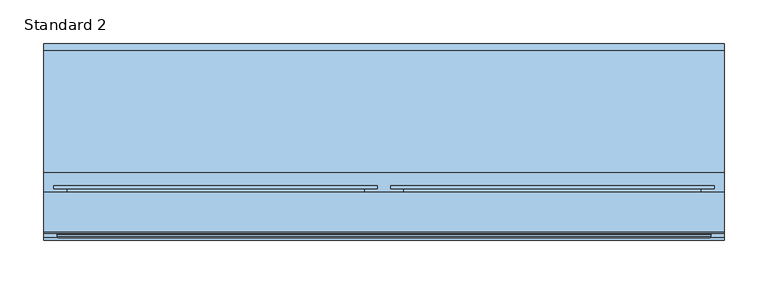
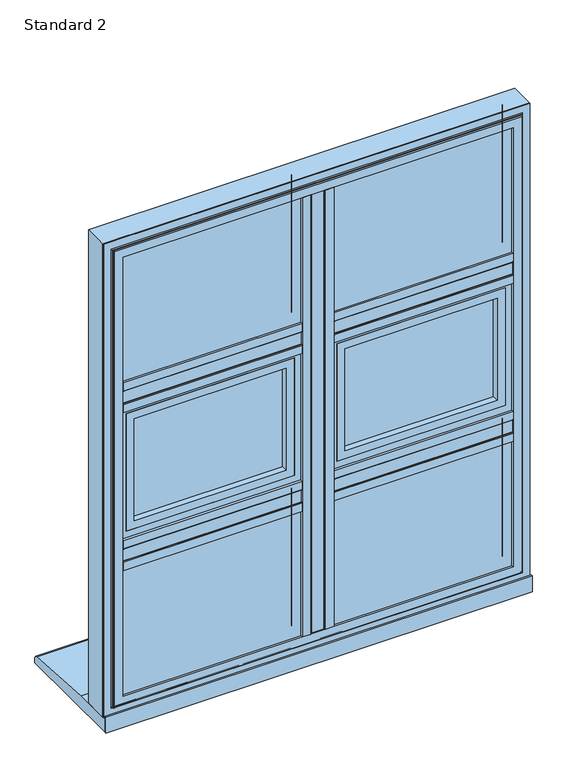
"""IFC4 building model written with IfcOpenShell, lengths in millimetres: window geometry, SMARTS_AlithermHeritage : Standard 2."""

from ifc_helpers import new_model, si_unit, point, frame, frame_2d, origin, place, context, project, spatial, polyline, circle_curve, ellipse_curve, trimmed, segment, composite_curve, outline, extrude, faceted_brep, source, transform, mapped, element, save
from ifc_brep_helpers import plane_surface, cylinder_surface, revolved_surface, advanced_brep


def standard_2_3150987d(model_context):
    return source(origin(), model_context, "Body", "SolidModel", [
        extrude(outline(polyline([(-13.6941456, 95.2798432), (13.6941456, 95.2798432), (13.6941456, 47.279476), (-13.6941456, 47.279476), (-13.6941456, 95.2798432)])), frame((0.0, 0.0, 652.6941456), z_axis=(0.0, 0.0, 1.0), x_axis=(1.0, 0.0, 0.0)), (0.0, 0.0, 1.0), 879.6117089),
        extrude(outline(composite_curve([segment(polyline([(-29.0, 47.279476), (29.0, 47.279476), (29.0, 43.2798432), (13.0, 43.2798432)]), True, "CONTINUOUS"), segment(trimmed(circle_curve(frame_2d((13.0, 44.2798432)), 1.0), [point((13.0, 43.2798432))], [point((12.0, 44.2798432))], False, "CARTESIAN"), True, "CONTINUOUS"), segment(polyline([(12.0, 44.2798432), (12.0, 45.7798432), (-12.0, 45.7798432), (-12.0, 44.2798432)]), True, "CONTINUOUS"), segment(trimmed(circle_curve(frame_2d((-13.0, 44.2798432)), 1.0), [point((-12.0, 44.2798432))], [point((-13.0, 43.2798432))], False, "CARTESIAN"), True, "CONTINUOUS"), segment(polyline([(-13.0, 43.2798432), (-29.0, 43.2798432), (-29.0, 47.279476)]), True, "CONTINUOUS")], self_intersect=False)), frame((0.0, 0.0, 668.0), z_axis=(0.0, 0.0, 1.0), x_axis=(1.0, 0.0, 0.0)), (0.0, 0.0, 1.0), 849.0),
        extrude(outline(polyline([(-13.6941456, 95.2798432), (-13.6941456, 47.279476), (-372.3058544, 47.279476), (-372.3058544, 95.2798432), (-13.6941456, 95.2798432)])), frame((0.0, 0.0, 926.3058544), z_axis=(0.0, 0.0, 1.0), x_axis=(1.0, 0.0, 0.0)), (0.0, 0.0, 1.0), 27.3882911),
        extrude(outline(composite_curve([segment(polyline([(47.279476, 911.0), (43.2798432, 911.0), (43.2798432, 927.0)]), True, "CONTINUOUS"), segment(trimmed(circle_curve(frame_2d((44.2798432, 927.0)), 1.0), [point((43.2798432, 927.0))], [point((44.2798432, 928.0))], False, "CARTESIAN"), True, "CONTINUOUS"), segment(polyline([(44.2798432, 928.0), (45.7798432, 928.0), (45.7798432, 952.0), (44.2798432, 952.0)]), True, "CONTINUOUS"), segment(trimmed(circle_curve(frame_2d((44.2798432, 953.0)), 1.0), [point((44.2798432, 952.0))], [point((43.2798432, 953.0))], False, "CARTESIAN"), True, "CONTINUOUS"), segment(polyline([(43.2798432, 953.0), (43.2798432, 969.0), (47.279476, 969.0), (47.279476, 911.0)]), True, "CONTINUOUS")], self_intersect=False)), frame((-357.0, 0.0, 0.0), z_axis=(1.0, 0.0, 0.0), x_axis=(0.0, 1.0, 0.0)), (0.0, 0.0, 1.0), 328.0),
        extrude(outline(polyline([(-13.6941456, 95.2798432), (-13.6941456, 47.279476), (-372.3058544, 47.279476), (-372.3058544, 95.2798432), (-13.6941456, 95.2798432)])), frame((0.0, 0.0, 1231.3058544), z_axis=(0.0, 0.0, 1.0), x_axis=(1.0, 0.0, 0.0)), (0.0, 0.0, 1.0), 27.3882911),
        extrude(outline(composite_curve([segment(polyline([(47.279476, 1216.0), (43.2798432, 1216.0), (43.2798432, 1232.0)]), True, "CONTINUOUS"), segment(trimmed(circle_curve(frame_2d((44.2798432, 1232.0)), 1.0), [point((43.2798432, 1232.0))], [point((44.2798432, 1233.0))], False, "CARTESIAN"), True, "CONTINUOUS"), segment(polyline([(44.2798432, 1233.0), (45.7798432, 1233.0), (45.7798432, 1257.0), (44.2798432, 1257.0)]), True, "CONTINUOUS"), segment(trimmed(circle_curve(frame_2d((44.2798432, 1258.0)), 1.0), [point((44.2798432, 1257.0))], [point((43.2798432, 1258.0))], False, "CARTESIAN"), True, "CONTINUOUS"), segment(polyline([(43.2798432, 1258.0), (43.2798432, 1274.0), (47.279476, 1274.0), (47.279476, 1216.0)]), True, "CONTINUOUS")], self_intersect=False)), frame((-357.0, 0.0, 0.0), z_axis=(1.0, 0.0, 0.0), x_axis=(0.0, 1.0, 0.0)), (0.0, 0.0, 1.0), 328.0),
        extrude(outline(polyline([(372.3058544, 95.2798432), (372.3058544, 47.279476), (13.6941456, 47.279476), (13.6941456, 95.2798432), (372.3058544, 95.2798432)])), frame((0.0, 0.0, 926.3058544), z_axis=(0.0, 0.0, 1.0), x_axis=(1.0, 0.0, 0.0)), (0.0, 0.0, 1.0), 27.3882911),
        extrude(outline(composite_curve([segment(polyline([(47.279476, 911.0), (43.2798432, 911.0), (43.2798432, 927.0)]), True, "CONTINUOUS"), segment(trimmed(circle_curve(frame_2d((44.2798432, 927.0)), 1.0), [point((43.2798432, 927.0))], [point((44.2798432, 928.0))], False, "CARTESIAN"), True, "CONTINUOUS"), segment(polyline([(44.2798432, 928.0), (45.7798432, 928.0), (45.7798432, 952.0), (44.2798432, 952.0)]), True, "CONTINUOUS"), segment(trimmed(circle_curve(frame_2d((44.2798432, 953.0)), 1.0), [point((44.2798432, 952.0))], [point((43.2798432, 953.0))], False, "CARTESIAN"), True, "CONTINUOUS"), segment(polyline([(43.2798432, 953.0), (43.2798432, 969.0), (47.279476, 969.0), (47.279476, 911.0)]), True, "CONTINUOUS")], self_intersect=False)), frame((29.0, 0.0, 0.0), z_axis=(1.0, 0.0, 0.0), x_axis=(0.0, 1.0, 0.0)), (0.0, 0.0, 1.0), 328.0),
        extrude(outline(polyline([(372.3058544, 95.2798432), (372.3058544, 47.279476), (13.6941456, 47.279476), (13.6941456, 95.2798432), (372.3058544, 95.2798432)])), frame((0.0, 0.0, 1231.3058544), z_axis=(0.0, 0.0, 1.0), x_axis=(1.0, 0.0, 0.0)), (0.0, 0.0, 1.0), 27.3882911),
        extrude(outline(composite_curve([segment(polyline([(47.279476, 1216.0), (43.2798432, 1216.0), (43.2798432, 1232.0)]), True, "CONTINUOUS"), segment(trimmed(circle_curve(frame_2d((44.2798432, 1232.0)), 1.0), [point((43.2798432, 1232.0))], [point((44.2798432, 1233.0))], False, "CARTESIAN"), True, "CONTINUOUS"), segment(polyline([(44.2798432, 1233.0), (45.7798432, 1233.0), (45.7798432, 1257.0), (44.2798432, 1257.0)]), True, "CONTINUOUS"), segment(trimmed(circle_curve(frame_2d((44.2798432, 1258.0)), 1.0), [point((44.2798432, 1257.0))], [point((43.2798432, 1258.0))], False, "CARTESIAN"), True, "CONTINUOUS"), segment(polyline([(43.2798432, 1258.0), (43.2798432, 1274.0), (47.279476, 1274.0), (47.279476, 1216.0)]), True, "CONTINUOUS")], self_intersect=False)), frame((29.0, 0.0, 0.0), z_axis=(1.0, 0.0, 0.0), x_axis=(0.0, 1.0, 0.0)), (0.0, 0.0, 1.0), 328.0),
        extrude(outline(polyline([(-367.0, 75.2798432), (-19.0, 75.2798432), (-19.0, 71.2798432), (-367.0, 71.2798432), (-367.0, 75.2798432)])), frame((0.0, 0.0, 658.0), z_axis=(0.0, 0.0, 1.0), x_axis=(1.0, 0.0, 0.0)), (0.0, 0.0, 1.0), 263.0),
        extrude(outline(polyline([(-367.0, 55.2798432), (-19.0, 55.2798432), (-19.0, 51.2798432), (-367.0, 51.2798432), (-367.0, 55.2798432)])), frame((0.0, 0.0, 658.0), z_axis=(0.0, 0.0, 1.0), x_axis=(1.0, 0.0, 0.0)), (0.0, 0.0, 1.0), 263.0),
        extrude(outline(polyline([(921.0, -367.0), (658.0, -367.0), (658.0, -19.0), (921.0, -19.0), (921.0, -367.0)]), holes=[polyline([(911.0, -29.0), (668.0, -29.0), (668.0, -357.0), (911.0, -357.0), (911.0, -29.0)])]), frame((0.0, 55.2798432, 0.0), z_axis=(0.0, 1.0, 0.0), x_axis=(0.0, 0.0, 1.0)), (0.0, 0.0, 1.0), 16.0),
        faceted_brep([(-19.1851151, 95.2798432, 920.8148849), (-29.0, 78.2798098, 911.0), (-357.0, 78.2798098, 911.0), (-366.8148849, 95.2798432, 920.8148849), (-13.6297324, 78.2798098, 926.3702676), (-13.6297324, 95.2798432, 926.3702676), (-372.3702676, 95.2798432, 926.3702676), (-372.3702676, 78.2798098, 926.3702676), (-372.3702676, 78.2798098, 652.6297324), (-372.3702676, 95.2798432, 652.6297324), (-13.6297324, 95.2798432, 652.6297324), (-13.6297324, 78.2798098, 652.6297324), (-366.8148849, 95.2798432, 658.1851151), (-19.1851151, 95.2798432, 658.1851151), (-29.0, 78.2798098, 668.0), (-357.0, 78.2798098, 668.0)], [[[0, 1, 2, 3]], [[4, 5, 6, 7]], [[8, 9, 10, 11]], [[5, 10, 9, 6], [3, 12, 13, 0]], [[7, 8, 11, 4], [1, 14, 15, 2]], [[3, 2, 15, 12]], [[7, 6, 9, 8]], [[12, 15, 14, 13]], [[13, 14, 1, 0]], [[11, 10, 5, 4]]]),
        extrude(outline(polyline([(-343.5, 89.2798432), (-42.5, 89.2798432), (-42.5, 85.2798432), (-343.5, 85.2798432), (-343.5, 89.2798432)])), frame((0.0, 0.0, 982.5), z_axis=(0.0, 0.0, 1.0), x_axis=(1.0, 0.0, 0.0)), (0.0, 0.0, 1.0), 220.0),
        extrude(outline(polyline([(-343.5, 69.2798432), (-42.5, 69.2798432), (-42.5, 65.2798432), (-343.5, 65.2798432), (-343.5, 69.2798432)])), frame((0.0, 0.0, 982.5), z_axis=(0.0, 0.0, 1.0), x_axis=(1.0, 0.0, 0.0)), (0.0, 0.0, 1.0), 220.0),
        extrude(outline(polyline([(1202.5, -343.5), (982.5, -343.5), (982.5, -42.5), (1202.5, -42.5), (1202.5, -343.5)]), holes=[polyline([(1192.5, -52.5), (992.5, -52.5), (992.5, -333.5), (1192.5, -333.5), (1192.5, -52.5)])]), frame((0.0, 69.2798432, 0.0), z_axis=(0.0, 1.0, 0.0), x_axis=(0.0, 0.0, 1.0)), (0.0, 0.0, 1.0), 16.0),
        extrude(outline(polyline([(1206.0052956, -347.0052956), (978.9947044, -347.0052956), (978.9947044, -38.9947044), (1206.0052956, -38.9947044), (1206.0052956, -347.0052956)]), holes=[polyline([(1191.0, -54.0), (994.0, -54.0), (994.0, -332.0), (1191.0, -332.0), (1191.0, -54.0)])]), frame((0.0, 51.2798432, 0.0), z_axis=(0.0, 1.0, 0.0), x_axis=(0.0, 0.0, 1.0)), (0.0, 0.0, 1.0), 11.3),
        extrude(outline(polyline([(963.3548042, -362.6451958), (963.3548042, -23.3548042), (1221.6451958, -23.3548042), (1221.6451958, -362.6451958), (963.3548042, -362.6451958)]), holes=[polyline([(1206.0, -347.0), (1206.0, -39.0), (979.0, -39.0), (979.0, -347.0), (1206.0, -347.0)])]), frame((0.0, 51.2798432, 0.0), z_axis=(0.0, 1.0, 0.0), x_axis=(0.0, 0.0, 1.0)), (0.0, 0.0, 1.0), 41.6),
        advanced_brep(
        [(-332.0, 98.0798432, 1191.0), (-332.0, 92.8798432, 1191.0), (-332.0, 92.8798432, 994.0), (-332.0, 98.0798432, 994.0), (-54.0, 92.8798432, 994.0), (-54.0, 98.0798432, 994.0), (-54.0, 92.8798432, 1191.0), (-54.0, 98.0798432, 1191.0), (-378.2, 99.2798432, 1237.2), (-378.2, 103.2798432, 1237.2), (-378.2, 103.2798432, 947.8), (-378.2, 99.2798432, 947.8), (-7.8, 103.2798432, 947.8), (-7.8, 99.2798432, 947.8), (-7.8, 103.2798432, 1237.2), (-7.8, 99.2798432, 1237.2), (-363.1467657, 99.2798432, 1222.1467657), (-22.8532343, 99.2798432, 1222.1467657), (-22.8532343, 99.2798432, 962.8532343), (-363.1467657, 99.2798432, 962.8532343), (-349.2, 103.2798432, 976.8), (-36.8, 103.2798432, 976.8), (-36.8, 103.2798432, 1208.2), (-349.2, 103.2798432, 1208.2), (-363.1467657, 92.8798432, 1222.1467657), (-363.1467657, 92.8798432, 962.8532343), (-22.8532343, 92.8798432, 962.8532343), (-22.8532343, 92.8798432, 1222.1467657), (-347.2, 101.2798432, 1206.2), (-347.2, 100.0798432, 1206.2), (-347.2, 100.0798432, 978.8), (-347.2, 101.2798432, 978.8), (-345.2, 98.0798432, 1204.2), (-345.2, 98.0798432, 980.8), (-38.8, 100.0798432, 978.8), (-38.8, 101.2798432, 978.8), (-40.8, 98.0798432, 980.8), (-38.8, 100.0798432, 1206.2), (-38.8, 101.2798432, 1206.2), (-40.8, 98.0798432, 1204.2)],
        [
            (0, 1),
            (1, 2),
            (2, 3),
            (3, 0),
            (2, 4),
            (4, 5),
            (5, 3),
            (4, 6),
            (6, 7),
            (7, 5),
            (6, 1),
            (0, 7),
            (8, 9),
            (9, 10),
            (10, 11),
            (11, 8),
            (10, 12),
            (12, 13),
            (13, 11),
            (12, 14),
            (14, 15),
            (15, 13),
            (15, 8),
            (16, 17),
            (17, 18),
            (18, 19),
            (19, 16),
            (14, 9),
            (20, 21),
            (21, 22),
            (22, 23),
            (23, 20),
            (24, 16),
            (19, 25),
            (25, 24),
            (18, 26),
            (26, 25),
            (17, 27),
            (27, 26),
            (27, 24),
            (28, 29),
            (29, 30),
            (30, 31),
            (31, 28),
            (29, 32, ellipse_curve(frame((-345.2, 100.0798432, 1204.2), z_axis=(0.7071067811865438, 0.0, 0.7071067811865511), x_axis=(0.707106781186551, 0.0, -0.7071067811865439)), 2.8284271, 2.0)),
            (32, 33),
            (33, 30, ellipse_curve(frame((-345.2, 100.0798432, 980.8), z_axis=(0.7071067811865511, 0.0, -0.7071067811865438), x_axis=(-0.7071067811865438, 0.0, -0.7071067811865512)), 2.8284271, 2.0)),
            (30, 34),
            (34, 35),
            (35, 31),
            (33, 36),
            (36, 34, ellipse_curve(frame((-40.8, 100.0798432, 980.8), z_axis=(0.7071067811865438, 0.0, 0.7071067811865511), x_axis=(0.7071067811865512, 0.0, -0.7071067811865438)), 2.8284271, 2.0)),
            (34, 37),
            (37, 38),
            (38, 35),
            (36, 39),
            (39, 37, ellipse_curve(frame((-40.8, 100.0798432, 1204.2), z_axis=(-0.7071067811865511, 0.0, 0.7071067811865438), x_axis=(0.7071067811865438, 0.0, 0.7071067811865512)), 2.8284271, 2.0)),
            (32, 39),
            (37, 29),
            (28, 38),
            (23, 28, ellipse_curve(frame((-349.2, 101.2798432, 1208.2), z_axis=(-0.7071067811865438, 0.0, -0.7071067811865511), x_axis=(-0.707106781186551, 0.0, 0.7071067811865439)), 2.8284271, 2.0)),
            (31, 20, ellipse_curve(frame((-349.2, 101.2798432, 976.8), z_axis=(-0.7071067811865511, 0.0, 0.7071067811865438), x_axis=(0.7071067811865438, 0.0, 0.7071067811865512)), 2.8284271, 2.0)),
            (35, 21, ellipse_curve(frame((-36.8, 101.2798432, 976.8), z_axis=(-0.7071067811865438, 0.0, -0.7071067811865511), x_axis=(-0.7071067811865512, 0.0, 0.7071067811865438)), 2.8284271, 2.0)),
            (38, 22, ellipse_curve(frame((-36.8, 101.2798432, 1208.2), z_axis=(0.7071067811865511, 0.0, -0.7071067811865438), x_axis=(-0.7071067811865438, 0.0, -0.7071067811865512)), 2.8284271, 2.0)),
        ],
        [
            plane_surface(frame((-332.0, 92.8798432, 1191.0), z_axis=(1.0, 0.0, 0.0), x_axis=(0.0, 0.0, -1.0))),
            plane_surface(frame((-332.0, 92.8798432, 994.0), z_axis=(0.0, 0.0, 1.0), x_axis=(1.0, 0.0, 0.0))),
            plane_surface(frame((-54.0, 92.8798432, 994.0), z_axis=(-1.0, 0.0, 0.0), x_axis=(0.0, 0.0, 1.0))),
            plane_surface(frame((-54.0, 92.8798432, 1191.0), z_axis=(0.0, 0.0, -1.0), x_axis=(-1.0, 0.0, 0.0))),
            plane_surface(frame((-378.2, 103.2798432, 1237.2), z_axis=(-1.0, 0.0, 0.0), x_axis=(0.0, 0.0, -1.0))),
            plane_surface(frame((-378.2, 103.2798432, 947.8), z_axis=(0.0, 0.0, -1.0), x_axis=(1.0, 0.0, 0.0))),
            plane_surface(frame((-7.8, 103.2798432, 947.8), z_axis=(1.0, 0.0, 0.0), x_axis=(0.0, 0.0, 1.0))),
            plane_surface(frame((-7.8, 99.2798432, 1237.2), z_axis=(0.0, -1.0, 0.0), x_axis=(-1.0, 0.0, 0.0))),
            plane_surface(frame((-7.8, 103.2798432, 1237.2), z_axis=(0.0, 0.0, 1.0), x_axis=(-1.0, 0.0, 0.0))),
            plane_surface(frame((-36.8, 103.2798432, 1208.2), z_axis=(0.0, 1.0, 0.0), x_axis=(-1.0, 0.0, 0.0))),
            plane_surface(frame((-363.1467657, 99.2798432, 1222.1467657), z_axis=(-1.0, 0.0, 0.0), x_axis=(0.0, 0.0, -1.0))),
            plane_surface(frame((-363.1467657, 99.2798432, 962.8532343), z_axis=(0.0, 0.0, -1.0), x_axis=(1.0, 0.0, 0.0))),
            plane_surface(frame((-22.8532343, 99.2798432, 962.8532343), z_axis=(1.0, 0.0, 0.0), x_axis=(0.0, 0.0, 1.0))),
            plane_surface(frame((-22.8532343, 92.8798432, 1222.1467657), z_axis=(0.0, -1.0, 0.0), x_axis=(-1.0, 0.0, 0.0))),
            plane_surface(frame((-22.8532343, 99.2798432, 1222.1467657), z_axis=(0.0, 0.0, 1.0), x_axis=(-1.0, 0.0, 0.0))),
            plane_surface(frame((-347.2, 100.0798432, 1206.2), z_axis=(1.0, 0.0, 0.0), x_axis=(0.0, 0.0, -1.0))),
            revolved_surface(polyline([(-347.2, 100.0798432, 978.8), (-347.2, 100.0798432, 1206.2)]), (-345.2, 100.0798432, 1216.0), (0.0, 0.0, -1.0)),
            plane_surface(frame((-347.2, 100.0798432, 978.8), z_axis=(0.0, 0.0, 1.0), x_axis=(1.0, 0.0, 0.0))),
            revolved_surface(polyline([(-38.80000000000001, 100.0798432, 978.8), (-347.2, 100.0798432, 978.8)]), (-357.0, 100.0798432, 980.8), (1.0, 0.0, 0.0)),
            plane_surface(frame((-38.8, 100.0798432, 978.8), z_axis=(-1.0, 0.0, 0.0), x_axis=(0.0, 0.0, 1.0))),
            revolved_surface(polyline([(-38.8, 100.0798432, 1206.2), (-38.8, 100.0798432, 978.8)]), (-40.8, 100.0798432, 969.0), (0.0, 0.0, 1.0)),
            plane_surface(frame((-54.0, 98.0798432, 1191.0), z_axis=(0.0, 1.0, 0.0), x_axis=(-1.0, 0.0, 0.0))),
            plane_surface(frame((-38.8, 100.0798432, 1206.2), z_axis=(0.0, 0.0, -1.0), x_axis=(-1.0, 0.0, 0.0))),
            revolved_surface(polyline([(-347.2, 100.0798432, 1206.2), (-38.8, 100.0798432, 1206.2)]), (-29.0, 100.0798432, 1204.2), (-1.0, 0.0, 0.0)),
            cylinder_surface(frame((-349.2, 101.2798432, 1216.0), z_axis=(0.0, 0.0, 1.0), x_axis=(-1.0, 0.0, 0.0)), 2.0),
            cylinder_surface(frame((-357.0, 101.2798432, 976.8), z_axis=(-1.0, 0.0, 0.0), x_axis=(0.0, 0.0, -1.0)), 2.0),
            cylinder_surface(frame((-36.8, 101.2798432, 969.0), z_axis=(0.0, 0.0, -1.0), x_axis=(1.0, 0.0, 0.0)), 2.0),
            cylinder_surface(frame((-29.0, 101.2798432, 1208.2), z_axis=(1.0, 0.0, 0.0), x_axis=(0.0, 0.0, 1.0)), 2.0),
        ],
        [
            (0, [[1, 2, 3, 4]]),
            (1, [[-3, 5, 6, 7]]),
            (2, [[-6, 8, 9, 10]]),
            (3, [[-9, 11, -1, 12]]),
            (4, [[13, 14, 15, 16]]),
            (5, [[-15, 17, 18, 19]]),
            (6, [[-18, 20, 21, 22]]),
            (7, [[-19, -22, 23, -16], [24, 25, 26, 27]]),
            (8, [[-21, 28, -13, -23]]),
            (9, [[-28, -20, -17, -14], [29, 30, 31, 32]]),
            (10, [[33, -27, 34, 35]]),
            (11, [[-34, -26, 36, 37]]),
            (12, [[-36, -25, 38, 39]]),
            (13, [[-37, -39, 40, -35], [-11, -8, -5, -2]]),
            (14, [[-38, -24, -33, -40]]),
            (15, [[41, 42, 43, 44]]),
            (16, [[45, 46, 47, -42]]),
            (17, [[-43, 48, 49, 50]]),
            (18, [[-47, 51, 52, -48]]),
            (19, [[-49, 53, 54, 55]]),
            (20, [[-52, 56, 57, -53]]),
            (21, [[58, -56, -51, -46], [-7, -10, -12, -4]]),
            (22, [[-54, 59, -41, 60]]),
            (23, [[-57, -58, -45, -59]]),
            (24, [[61, -44, 62, -32]]),
            (25, [[-62, -50, 63, -29]]),
            (26, [[-63, -55, 64, -30]]),
            (27, [[-64, -60, -61, -31]]),
        ],
    ),
        extrude(outline(polyline([(-367.0, 75.2798432), (-19.0, 75.2798432), (-19.0, 71.2798432), (-367.0, 71.2798432), (-367.0, 75.2798432)])), frame((0.0, 0.0, 1264.0), z_axis=(0.0, 0.0, 1.0), x_axis=(1.0, 0.0, 0.0)), (0.0, 0.0, 1.0), 263.0),
        extrude(outline(polyline([(-367.0, 55.2798432), (-19.0, 55.2798432), (-19.0, 51.2798432), (-367.0, 51.2798432), (-367.0, 55.2798432)])), frame((0.0, 0.0, 1264.0), z_axis=(0.0, 0.0, 1.0), x_axis=(1.0, 0.0, 0.0)), (0.0, 0.0, 1.0), 263.0),
        extrude(outline(polyline([(1527.0, -367.0), (1264.0, -367.0), (1264.0, -19.0), (1527.0, -19.0), (1527.0, -367.0)]), holes=[polyline([(1517.0, -29.0), (1274.0, -29.0), (1274.0, -357.0), (1517.0, -357.0), (1517.0, -29.0)])]), frame((0.0, 55.2798432, 0.0), z_axis=(0.0, 1.0, 0.0), x_axis=(0.0, 0.0, 1.0)), (0.0, 0.0, 1.0), 16.0),
        faceted_brep([(-19.1851151, 95.2798432, 1526.8148849), (-29.0, 78.2798098, 1517.0), (-357.0, 78.2798098, 1517.0), (-366.8148849, 95.2798432, 1526.8148849), (-13.6297324, 78.2798098, 1532.3702676), (-13.6297324, 95.2798432, 1532.3702676), (-372.3702676, 95.2798432, 1532.3702676), (-372.3702676, 78.2798098, 1532.3702676), (-372.3702676, 78.2798098, 1258.6297324), (-372.3702676, 95.2798432, 1258.6297324), (-13.6297324, 95.2798432, 1258.6297324), (-13.6297324, 78.2798098, 1258.6297324), (-366.8148849, 95.2798432, 1264.1851151), (-19.1851151, 95.2798432, 1264.1851151), (-29.0, 78.2798098, 1274.0), (-357.0, 78.2798098, 1274.0)], [[[0, 1, 2, 3]], [[4, 5, 6, 7]], [[8, 9, 10, 11]], [[5, 10, 9, 6], [3, 12, 13, 0]], [[7, 8, 11, 4], [1, 14, 15, 2]], [[3, 2, 15, 12]], [[7, 6, 9, 8]], [[12, 15, 14, 13]], [[13, 14, 1, 0]], [[11, 10, 5, 4]]]),
        extrude(outline(polyline([(19.0, 75.2798432), (367.0, 75.2798432), (367.0, 71.2798432), (19.0, 71.2798432), (19.0, 75.2798432)])), frame((0.0, 0.0, 658.0), z_axis=(0.0, 0.0, 1.0), x_axis=(1.0, 0.0, 0.0)), (0.0, 0.0, 1.0), 263.0),
        extrude(outline(polyline([(19.0, 55.2798432), (367.0, 55.2798432), (367.0, 51.2798432), (19.0, 51.2798432), (19.0, 55.2798432)])), frame((0.0, 0.0, 658.0), z_axis=(0.0, 0.0, 1.0), x_axis=(1.0, 0.0, 0.0)), (0.0, 0.0, 1.0), 263.0),
        extrude(outline(polyline([(921.0, 19.0), (658.0, 19.0), (658.0, 367.0), (921.0, 367.0), (921.0, 19.0)]), holes=[polyline([(911.0, 357.0), (668.0, 357.0), (668.0, 29.0), (911.0, 29.0), (911.0, 357.0)])]), frame((0.0, 55.2798432, 0.0), z_axis=(0.0, 1.0, 0.0), x_axis=(0.0, 0.0, 1.0)), (0.0, 0.0, 1.0), 16.0),
        faceted_brep([(366.8148849, 95.2798432, 920.8148849), (357.0, 78.2798098, 911.0), (29.0, 78.2798098, 911.0), (19.1851151, 95.2798432, 920.8148849), (372.3702676, 78.2798098, 926.3702676), (372.3702676, 95.2798432, 926.3702676), (13.6297324, 95.2798432, 926.3702676), (13.6297324, 78.2798098, 926.3702676), (13.6297324, 78.2798098, 652.6297324), (13.6297324, 95.2798432, 652.6297324), (372.3702676, 95.2798432, 652.6297324), (372.3702676, 78.2798098, 652.6297324), (19.1851151, 95.2798432, 658.1851151), (366.8148849, 95.2798432, 658.1851151), (357.0, 78.2798098, 668.0), (29.0, 78.2798098, 668.0)], [[[0, 1, 2, 3]], [[4, 5, 6, 7]], [[8, 9, 10, 11]], [[5, 10, 9, 6], [3, 12, 13, 0]], [[7, 8, 11, 4], [1, 14, 15, 2]], [[3, 2, 15, 12]], [[7, 6, 9, 8]], [[12, 15, 14, 13]], [[13, 14, 1, 0]], [[11, 10, 5, 4]]]),
        extrude(outline(polyline([(42.5, 89.2798432), (343.5, 89.2798432), (343.5, 85.2798432), (42.5, 85.2798432), (42.5, 89.2798432)])), frame((0.0, 0.0, 982.5), z_axis=(0.0, 0.0, 1.0), x_axis=(1.0, 0.0, 0.0)), (0.0, 0.0, 1.0), 220.0),
        extrude(outline(polyline([(42.5, 69.2798432), (343.5, 69.2798432), (343.5, 65.2798432), (42.5, 65.2798432), (42.5, 69.2798432)])), frame((0.0, 0.0, 982.5), z_axis=(0.0, 0.0, 1.0), x_axis=(1.0, 0.0, 0.0)), (0.0, 0.0, 1.0), 220.0),
        extrude(outline(polyline([(1202.5, 42.5), (982.5, 42.5), (982.5, 343.5), (1202.5, 343.5), (1202.5, 42.5)]), holes=[polyline([(1192.5, 333.5), (992.5, 333.5), (992.5, 52.5), (1192.5, 52.5), (1192.5, 333.5)])]), frame((0.0, 69.2798432, 0.0), z_axis=(0.0, 1.0, 0.0), x_axis=(0.0, 0.0, 1.0)), (0.0, 0.0, 1.0), 16.0),
        extrude(outline(polyline([(1206.0052956, 38.9947044), (978.9947044, 38.9947044), (978.9947044, 347.0052956), (1206.0052956, 347.0052956), (1206.0052956, 38.9947044)]), holes=[polyline([(1191.0, 332.0), (994.0, 332.0), (994.0, 54.0), (1191.0, 54.0), (1191.0, 332.0)])]), frame((0.0, 51.2798432, 0.0), z_axis=(0.0, 1.0, 0.0), x_axis=(0.0, 0.0, 1.0)), (0.0, 0.0, 1.0), 11.3),
        extrude(outline(polyline([(963.3548042, 23.3548042), (963.3548042, 362.6451958), (1221.6451958, 362.6451958), (1221.6451958, 23.3548042), (963.3548042, 23.3548042)]), holes=[polyline([(1206.0, 39.0), (1206.0, 347.0), (979.0, 347.0), (979.0, 39.0), (1206.0, 39.0)])]), frame((0.0, 51.2798432, 0.0), z_axis=(0.0, 1.0, 0.0), x_axis=(0.0, 0.0, 1.0)), (0.0, 0.0, 1.0), 41.6),
        advanced_brep(
        [(54.0, 98.0798432, 1191.0), (54.0, 92.8798432, 1191.0), (54.0, 92.8798432, 994.0), (54.0, 98.0798432, 994.0), (332.0, 92.8798432, 994.0), (332.0, 98.0798432, 994.0), (332.0, 92.8798432, 1191.0), (332.0, 98.0798432, 1191.0), (7.8, 99.2798432, 1237.2), (7.8, 103.2798432, 1237.2), (7.8, 103.2798432, 947.8), (7.8, 99.2798432, 947.8), (378.2, 103.2798432, 947.8), (378.2, 99.2798432, 947.8), (378.2, 103.2798432, 1237.2), (378.2, 99.2798432, 1237.2), (22.8532343, 99.2798432, 1222.1467657), (363.1467657, 99.2798432, 1222.1467657), (363.1467657, 99.2798432, 962.8532343), (22.8532343, 99.2798432, 962.8532343), (36.8, 103.2798432, 976.8), (349.2, 103.2798432, 976.8), (349.2, 103.2798432, 1208.2), (36.8, 103.2798432, 1208.2), (22.8532343, 92.8798432, 1222.1467657), (22.8532343, 92.8798432, 962.8532343), (363.1467657, 92.8798432, 962.8532343), (363.1467657, 92.8798432, 1222.1467657), (38.8, 101.2798432, 1206.2), (38.8, 100.0798432, 1206.2), (38.8, 100.0798432, 978.8), (38.8, 101.2798432, 978.8), (40.8, 98.0798432, 1204.2), (40.8, 98.0798432, 980.8), (347.2, 100.0798432, 978.8), (347.2, 101.2798432, 978.8), (345.2, 98.0798432, 980.8), (347.2, 100.0798432, 1206.2), (347.2, 101.2798432, 1206.2), (345.2, 98.0798432, 1204.2)],
        [
            (0, 1),
            (1, 2),
            (2, 3),
            (3, 0),
            (2, 4),
            (4, 5),
            (5, 3),
            (4, 6),
            (6, 7),
            (7, 5),
            (6, 1),
            (0, 7),
            (8, 9),
            (9, 10),
            (10, 11),
            (11, 8),
            (10, 12),
            (12, 13),
            (13, 11),
            (12, 14),
            (14, 15),
            (15, 13),
            (15, 8),
            (16, 17),
            (17, 18),
            (18, 19),
            (19, 16),
            (14, 9),
            (20, 21),
            (21, 22),
            (22, 23),
            (23, 20),
            (24, 16),
            (19, 25),
            (25, 24),
            (18, 26),
            (26, 25),
            (17, 27),
            (27, 26),
            (27, 24),
            (28, 29),
            (29, 30),
            (30, 31),
            (31, 28),
            (29, 32, ellipse_curve(frame((40.8, 100.0798432, 1204.2), z_axis=(0.7071067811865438, 0.0, 0.7071067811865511), x_axis=(0.707106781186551, 0.0, -0.7071067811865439)), 2.8284271, 2.0)),
            (32, 33),
            (33, 30, ellipse_curve(frame((40.8, 100.0798432, 980.8), z_axis=(0.7071067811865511, 0.0, -0.7071067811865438), x_axis=(-0.7071067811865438, 0.0, -0.7071067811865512)), 2.8284271, 2.0)),
            (30, 34),
            (34, 35),
            (35, 31),
            (33, 36),
            (36, 34, ellipse_curve(frame((345.2, 100.0798432, 980.8), z_axis=(0.7071067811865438, 0.0, 0.7071067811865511), x_axis=(0.7071067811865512, 0.0, -0.7071067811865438)), 2.8284271, 2.0)),
            (34, 37),
            (37, 38),
            (38, 35),
            (36, 39),
            (39, 37, ellipse_curve(frame((345.2, 100.0798432, 1204.2), z_axis=(-0.7071067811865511, 0.0, 0.7071067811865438), x_axis=(0.7071067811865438, 0.0, 0.7071067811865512)), 2.8284271, 2.0)),
            (32, 39),
            (37, 29),
            (28, 38),
            (23, 28, ellipse_curve(frame((36.8, 101.2798432, 1208.2), z_axis=(-0.7071067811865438, 0.0, -0.7071067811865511), x_axis=(-0.707106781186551, 0.0, 0.7071067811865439)), 2.8284271, 2.0)),
            (31, 20, ellipse_curve(frame((36.8, 101.2798432, 976.8), z_axis=(-0.7071067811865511, 0.0, 0.7071067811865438), x_axis=(0.7071067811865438, 0.0, 0.7071067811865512)), 2.8284271, 2.0)),
            (35, 21, ellipse_curve(frame((349.2, 101.2798432, 976.8), z_axis=(-0.7071067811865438, 0.0, -0.7071067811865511), x_axis=(-0.7071067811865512, 0.0, 0.7071067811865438)), 2.8284271, 2.0)),
            (38, 22, ellipse_curve(frame((349.2, 101.2798432, 1208.2), z_axis=(0.7071067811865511, 0.0, -0.7071067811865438), x_axis=(-0.7071067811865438, 0.0, -0.7071067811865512)), 2.8284271, 2.0)),
        ],
        [
            plane_surface(frame((54.0, 92.8798432, 1191.0), z_axis=(1.0, 0.0, 0.0), x_axis=(0.0, 0.0, -1.0))),
            plane_surface(frame((54.0, 92.8798432, 994.0), z_axis=(0.0, 0.0, 1.0), x_axis=(1.0, 0.0, 0.0))),
            plane_surface(frame((332.0, 92.8798432, 994.0), z_axis=(-1.0, 0.0, 0.0), x_axis=(0.0, 0.0, 1.0))),
            plane_surface(frame((332.0, 92.8798432, 1191.0), z_axis=(0.0, 0.0, -1.0), x_axis=(-1.0, 0.0, 0.0))),
            plane_surface(frame((7.8, 103.2798432, 1237.2), z_axis=(-1.0, 0.0, 0.0), x_axis=(0.0, 0.0, -1.0))),
            plane_surface(frame((7.8, 103.2798432, 947.8), z_axis=(0.0, 0.0, -1.0), x_axis=(1.0, 0.0, 0.0))),
            plane_surface(frame((378.2, 103.2798432, 947.8), z_axis=(1.0, 0.0, 0.0), x_axis=(0.0, 0.0, 1.0))),
            plane_surface(frame((378.2, 99.2798432, 1237.2), z_axis=(0.0, -1.0, 0.0), x_axis=(-1.0, 0.0, 0.0))),
            plane_surface(frame((378.2, 103.2798432, 1237.2), z_axis=(0.0, 0.0, 1.0), x_axis=(-1.0, 0.0, 0.0))),
            plane_surface(frame((349.2, 103.2798432, 1208.2), z_axis=(0.0, 1.0, 0.0), x_axis=(-1.0, 0.0, 0.0))),
            plane_surface(frame((22.8532343, 99.2798432, 1222.1467657), z_axis=(-1.0, 0.0, 0.0), x_axis=(0.0, 0.0, -1.0))),
            plane_surface(frame((22.8532343, 99.2798432, 962.8532343), z_axis=(0.0, 0.0, -1.0), x_axis=(1.0, 0.0, 0.0))),
            plane_surface(frame((363.1467657, 99.2798432, 962.8532343), z_axis=(1.0, 0.0, 0.0), x_axis=(0.0, 0.0, 1.0))),
            plane_surface(frame((363.1467657, 92.8798432, 1222.1467657), z_axis=(0.0, -1.0, 0.0), x_axis=(-1.0, 0.0, 0.0))),
            plane_surface(frame((363.1467657, 99.2798432, 1222.1467657), z_axis=(0.0, 0.0, 1.0), x_axis=(-1.0, 0.0, 0.0))),
            plane_surface(frame((38.8, 100.0798432, 1206.2), z_axis=(1.0, 0.0, 0.0), x_axis=(0.0, 0.0, -1.0))),
            revolved_surface(polyline([(38.8, 100.0798432, 978.8), (38.8, 100.0798432, 1206.2)]), (40.8, 100.0798432, 1216.0), (0.0, 0.0, -1.0)),
            plane_surface(frame((38.8, 100.0798432, 978.8), z_axis=(0.0, 0.0, 1.0), x_axis=(1.0, 0.0, 0.0))),
            revolved_surface(polyline([(347.2, 100.0798432, 978.8), (38.8, 100.0798432, 978.8)]), (29.0, 100.0798432, 980.8), (1.0, 0.0, 0.0)),
            plane_surface(frame((347.2, 100.0798432, 978.8), z_axis=(-1.0, 0.0, 0.0), x_axis=(0.0, 0.0, 1.0))),
            revolved_surface(polyline([(347.2, 100.0798432, 1206.2), (347.2, 100.0798432, 978.8)]), (345.2, 100.0798432, 969.0), (0.0, 0.0, 1.0)),
            plane_surface(frame((332.0, 98.0798432, 1191.0), z_axis=(0.0, 1.0, 0.0), x_axis=(-1.0, 0.0, 0.0))),
            plane_surface(frame((347.2, 100.0798432, 1206.2), z_axis=(0.0, 0.0, -1.0), x_axis=(-1.0, 0.0, 0.0))),
            revolved_surface(polyline([(38.80000000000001, 100.0798432, 1206.2), (347.2, 100.0798432, 1206.2)]), (357.0, 100.0798432, 1204.2), (-1.0, 0.0, 0.0)),
            cylinder_surface(frame((36.8, 101.2798432, 1216.0), z_axis=(0.0, 0.0, 1.0), x_axis=(-1.0, 0.0, 0.0)), 2.0),
            cylinder_surface(frame((29.0, 101.2798432, 976.8), z_axis=(-1.0, 0.0, 0.0), x_axis=(0.0, 0.0, -1.0)), 2.0),
            cylinder_surface(frame((349.2, 101.2798432, 969.0), z_axis=(0.0, 0.0, -1.0), x_axis=(1.0, 0.0, 0.0)), 2.0),
            cylinder_surface(frame((357.0, 101.2798432, 1208.2), z_axis=(1.0, 0.0, 0.0), x_axis=(0.0, 0.0, 1.0)), 2.0),
        ],
        [
            (0, [[1, 2, 3, 4]]),
            (1, [[-3, 5, 6, 7]]),
            (2, [[-6, 8, 9, 10]]),
            (3, [[-9, 11, -1, 12]]),
            (4, [[13, 14, 15, 16]]),
            (5, [[-15, 17, 18, 19]]),
            (6, [[-18, 20, 21, 22]]),
            (7, [[-19, -22, 23, -16], [24, 25, 26, 27]]),
            (8, [[-21, 28, -13, -23]]),
            (9, [[-28, -20, -17, -14], [29, 30, 31, 32]]),
            (10, [[33, -27, 34, 35]]),
            (11, [[-34, -26, 36, 37]]),
            (12, [[-36, -25, 38, 39]]),
            (13, [[-37, -39, 40, -35], [-11, -8, -5, -2]]),
            (14, [[-38, -24, -33, -40]]),
            (15, [[41, 42, 43, 44]]),
            (16, [[45, 46, 47, -42]]),
            (17, [[-43, 48, 49, 50]]),
            (18, [[-47, 51, 52, -48]]),
            (19, [[-49, 53, 54, 55]]),
            (20, [[-52, 56, 57, -53]]),
            (21, [[58, -56, -51, -46], [-7, -10, -12, -4]]),
            (22, [[-54, 59, -41, 60]]),
            (23, [[-57, -58, -45, -59]]),
            (24, [[61, -44, 62, -32]]),
            (25, [[-62, -50, 63, -29]]),
            (26, [[-63, -55, 64, -30]]),
            (27, [[-64, -60, -61, -31]]),
        ],
    ),
        extrude(outline(polyline([(1550.0, 390.0), (1550.0, -390.0), (635.0, -390.0), (635.0, 390.0), (1550.0, 390.0)]), holes=[polyline([(652.7000182, 372.2999818), (652.7000182, -372.2999818), (1532.2999818, -372.2999818), (1532.2999818, 372.2999818), (652.7000182, 372.2999818)])]), frame((0.0, 50.279857, 0.0), z_axis=(0.0, 1.0, 0.0), x_axis=(0.0, 0.0, 1.0)), (0.0, 0.0, 1.0), 44.9999962),
        advanced_brep(
        [(357.0, 43.2798432, 1517.0), (357.0, 47.2798432, 1517.0), (357.0, 47.2798432, 668.0), (357.0, 43.2798432, 668.0), (390.0, 50.279857, 1550.0), (390.0, 48.279857, 1550.0), (390.0, 48.279857, 635.0), (390.0, 50.279857, 635.0), (372.4999818, 43.2798432, 1532.4999818), (-372.4999818, 43.2798432, 1532.4999818), (-372.4999818, 43.2798432, 652.5000182), (372.4999818, 43.2798432, 652.5000182), (-357.0, 43.2798432, 668.0), (-357.0, 43.2798432, 1517.0), (-390.0, 50.279857, 1550.0), (-390.0, 48.279857, 1550.0), (-390.0, 50.279857, 635.0), (372.2999818, 50.279857, 1532.2999818), (-372.2999818, 50.279857, 1532.2999818), (-372.2999818, 50.279857, 652.7000182), (372.2999818, 50.279857, 652.7000182), (-357.0, 47.2798432, 1517.0), (-357.0, 47.2798432, 668.0), (-390.0, 48.279857, 635.0), (-372.2999818, 47.2798432, 1532.2999818), (372.2999818, 47.2798432, 1532.2999818), (372.2999818, 47.2798432, 652.7000182), (374.4999818, 46.779857, 650.5000182), (374.4999818, 45.2798432, 650.5000182), (-374.4999818, 45.2798432, 650.5000182), (-374.4999818, 46.779857, 650.5000182), (374.4999818, 46.779857, 1534.4999818), (374.4999818, 45.2798432, 1534.4999818), (-372.2999818, 47.2798432, 652.7000182), (-374.4999818, 45.2798432, 1534.4999818), (-374.4999818, 46.779857, 1534.4999818), (375.9999818, 48.279857, 1535.9999818), (375.9999818, 48.279857, 649.0000182), (-375.9999818, 48.279857, 649.0000182), (-375.9999818, 48.279857, 1535.9999818)],
        [
            (0, 1),
            (1, 2),
            (2, 3),
            (3, 0),
            (4, 5),
            (5, 6),
            (6, 7),
            (7, 4),
            (8, 9),
            (9, 10),
            (10, 11),
            (11, 8),
            (3, 12),
            (12, 13),
            (13, 0),
            (14, 15),
            (15, 5),
            (4, 14),
            (7, 16),
            (16, 14),
            (17, 18),
            (18, 19),
            (19, 20),
            (20, 17),
            (13, 21),
            (21, 1),
            (2, 22),
            (22, 12),
            (22, 21),
            (6, 23),
            (23, 16),
            (23, 15),
            (24, 18),
            (17, 25),
            (25, 24),
            (20, 26),
            (26, 25),
            (27, 28),
            (28, 29),
            (29, 30),
            (30, 27),
            (31, 32),
            (32, 28),
            (27, 31),
            (19, 33),
            (33, 26),
            (24, 33),
            (29, 34),
            (34, 35),
            (35, 30),
            (34, 32),
            (31, 35),
            (36, 31, ellipse_curve(frame((375.9999818, 46.779857, 1535.9999818), z_axis=(-0.7071067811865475, 0.0, 0.7071067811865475), x_axis=(-0.7071067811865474, 0.0, -0.7071067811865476)), 2.1213203, 1.5)),
            (27, 37, ellipse_curve(frame((375.9999818, 46.779857, 649.0000182), z_axis=(-0.7071067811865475, 0.0, -0.7071067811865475), x_axis=(0.7071067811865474, 0.0, -0.7071067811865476)), 2.1213203, 1.5)),
            (37, 36),
            (30, 38, ellipse_curve(frame((-375.9999818, 46.779857, 649.0000182), z_axis=(-0.7071067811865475, 0.0, 0.7071067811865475), x_axis=(-0.7071067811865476, 0.0, -0.7071067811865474)), 2.1213203, 1.5)),
            (38, 37),
            (35, 39, ellipse_curve(frame((-375.9999818, 46.779857, 1535.9999818), z_axis=(0.7071067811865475, 0.0, 0.7071067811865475), x_axis=(-0.7071067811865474, 0.0, 0.7071067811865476)), 2.1213203, 1.5)),
            (39, 38),
            (36, 39),
            (32, 8, ellipse_curve(frame((372.4999818, 45.2798432, 1532.4999818), z_axis=(0.7071067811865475, 0.0, -0.7071067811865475), x_axis=(0.7071067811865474, 0.0, 0.7071067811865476)), 2.8284271, 2.0)),
            (11, 28, ellipse_curve(frame((372.4999818, 45.2798432, 652.5000182), z_axis=(0.7071067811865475, 0.0, 0.7071067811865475), x_axis=(-0.7071067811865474, 0.0, 0.7071067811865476)), 2.8284271, 2.0)),
            (10, 29, ellipse_curve(frame((-372.4999818, 45.2798432, 652.5000182), z_axis=(0.7071067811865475, 0.0, -0.7071067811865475), x_axis=(0.7071067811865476, 0.0, 0.7071067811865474)), 2.8284271, 2.0)),
            (9, 34, ellipse_curve(frame((-372.4999818, 45.2798432, 1532.4999818), z_axis=(-0.7071067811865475, 0.0, -0.7071067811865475), x_axis=(0.7071067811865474, 0.0, -0.7071067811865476)), 2.8284271, 2.0)),
        ],
        [
            plane_surface(frame((357.0, 47.2798432, 1517.0), z_axis=(-1.0, 0.0, 0.0), x_axis=(0.0, 0.0, -1.0))),
            plane_surface(frame((390.0, 48.279857, 1550.0), z_axis=(1.0, 0.0, 0.0), x_axis=(0.0, 0.0, -1.0))),
            plane_surface(frame((-357.0, 43.2798432, 1517.0), z_axis=(0.0, -1.0, 0.0), x_axis=(1.0, 0.0, 0.0))),
            plane_surface(frame((-390.0, 48.279857, 1550.0), z_axis=(0.0, 0.0, 1.0), x_axis=(1.0, 0.0, 0.0))),
            plane_surface(frame((-390.0, 50.279857, 1550.0), z_axis=(0.0, 1.0, 0.0), x_axis=(1.0, 0.0, 0.0))),
            plane_surface(frame((-357.0, 47.2798432, 1517.0), z_axis=(0.0, 0.0, -1.0), x_axis=(1.0, 0.0, 0.0))),
            plane_surface(frame((357.0, 47.2798432, 668.0), z_axis=(0.0, 0.0, 1.0), x_axis=(-1.0, 0.0, 0.0))),
            plane_surface(frame((-357.0, 47.2798432, 668.0), z_axis=(1.0, 0.0, 0.0), x_axis=(0.0, 0.0, 1.0))),
            plane_surface(frame((390.0, 48.279857, 635.0), z_axis=(0.0, 0.0, -1.0), x_axis=(-1.0, 0.0, 0.0))),
            plane_surface(frame((-390.0, 48.279857, 635.0), z_axis=(-1.0, 0.0, 0.0), x_axis=(0.0, 0.0, 1.0))),
            plane_surface(frame((-372.2999818, 50.279857, 1532.2999818), z_axis=(0.0, 0.0, -1.0), x_axis=(1.0, 0.0, 0.0))),
            plane_surface(frame((372.2999818, 50.279857, 1532.2999818), z_axis=(-1.0, 0.0, 0.0), x_axis=(0.0, 0.0, -1.0))),
            plane_surface(frame((374.4999818, 45.2798432, 650.5000182), z_axis=(0.0, 0.0, -1.0), x_axis=(-1.0, 0.0, 0.0))),
            plane_surface(frame((374.4999818, 45.2798432, 1534.4999818), z_axis=(1.0, 0.0, 0.0), x_axis=(0.0, 0.0, -1.0))),
            plane_surface(frame((372.2999818, 50.279857, 652.7000182), z_axis=(0.0, 0.0, 1.0), x_axis=(-1.0, 0.0, 0.0))),
            plane_surface(frame((-372.2999818, 50.279857, 652.7000182), z_axis=(1.0, 0.0, 0.0), x_axis=(0.0, 0.0, 1.0))),
            plane_surface(frame((-374.4999818, 45.2798432, 650.5000182), z_axis=(-1.0, 0.0, 0.0), x_axis=(0.0, 0.0, 1.0))),
            plane_surface(frame((-372.2999818, 47.2798432, 1532.2999818), z_axis=(0.0, 1.0, 0.0), x_axis=(1.0, 0.0, 0.0))),
            plane_surface(frame((-374.4999818, 45.2798432, 1534.4999818), z_axis=(0.0, 0.0, 1.0), x_axis=(1.0, 0.0, 0.0))),
            revolved_surface(polyline([(374.4999818, 46.779857, 647.5000182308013), (374.4999818, 46.779857, 1537.4999817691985)]), (375.9999818, 46.779857, 1550.0), (0.0, 0.0, -1.0)),
            revolved_surface(polyline([(-377.4999817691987, 46.779857, 650.5000182), (377.49998176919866, 46.779857, 650.5000182)]), (390.0, 46.779857, 649.0000182), (-1.0, 0.0, 0.0)),
            revolved_surface(polyline([(-374.4999818, 46.779857, 1537.4999817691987), (-374.4999818, 46.779857, 647.5000182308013)]), (-375.9999818, 46.779857, 635.0), (0.0, 0.0, 1.0)),
            revolved_surface(polyline([(377.4999817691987, 46.779857, 1534.4999818), (-377.49998176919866, 46.779857, 1534.4999818)]), (-390.0, 46.779857, 1535.9999818), (1.0, 0.0, 0.0)),
            plane_surface(frame((-375.9999818, 48.279857, 1535.9999818), z_axis=(0.0, -1.0, 0.0), x_axis=(1.0, 0.0, 0.0))),
            cylinder_surface(frame((372.4999818, 45.2798432, 1550.0), z_axis=(0.0, 0.0, 1.0), x_axis=(-1.0, 0.0, 0.0)), 2.0),
            cylinder_surface(frame((390.0, 45.2798432, 652.5000182), z_axis=(1.0, 0.0, 0.0), x_axis=(0.0, 0.0, 1.0)), 2.0),
            cylinder_surface(frame((-372.4999818, 45.2798432, 635.0), z_axis=(0.0, 0.0, -1.0), x_axis=(1.0, 0.0, 0.0)), 2.0),
            cylinder_surface(frame((-390.0, 45.2798432, 1532.4999818), z_axis=(-1.0, 0.0, 0.0), x_axis=(0.0, 0.0, -1.0)), 2.0),
        ],
        [
            (0, [[1, 2, 3, 4]]),
            (1, [[5, 6, 7, 8]]),
            (2, [[9, 10, 11, 12], [13, 14, 15, -4]]),
            (3, [[16, 17, -5, 18]]),
            (4, [[19, 20, -18, -8], [21, 22, 23, 24]]),
            (5, [[25, 26, -1, -15]]),
            (6, [[-3, 27, 28, -13]]),
            (7, [[-28, 29, -25, -14]]),
            (8, [[-7, 30, 31, -19]]),
            (9, [[-31, 32, -16, -20]]),
            (10, [[33, -21, 34, 35]]),
            (11, [[-34, -24, 36, 37]]),
            (12, [[38, 39, 40, 41]]),
            (13, [[42, 43, -38, 44]]),
            (14, [[-36, -23, 45, 46]]),
            (15, [[-45, -22, -33, 47]]),
            (16, [[-40, 48, 49, 50]]),
            (17, [[-46, -47, -35, -37], [-26, -29, -27, -2]]),
            (18, [[-49, 51, -42, 52]]),
            (19, [[53, -44, 54, 55]]),
            (20, [[-54, -41, 56, 57]]),
            (21, [[-56, -50, 58, 59]]),
            (22, [[-58, -52, -53, 60]]),
            (23, [[-17, -32, -30, -6], [-57, -59, -60, -55]]),
            (24, [[61, -12, 62, -43]]),
            (25, [[-62, -11, 63, -39]]),
            (26, [[-63, -10, 64, -48]]),
            (27, [[-64, -9, -61, -51]]),
        ],
    ),
        extrude(outline(polyline([(19.0, 75.2798432), (367.0, 75.2798432), (367.0, 71.2798432), (19.0, 71.2798432), (19.0, 75.2798432)])), frame((0.0, 0.0, 1264.0), z_axis=(0.0, 0.0, 1.0), x_axis=(1.0, 0.0, 0.0)), (0.0, 0.0, 1.0), 263.0),
        extrude(outline(polyline([(19.0, 55.2798432), (367.0, 55.2798432), (367.0, 51.2798432), (19.0, 51.2798432), (19.0, 55.2798432)])), frame((0.0, 0.0, 1264.0), z_axis=(0.0, 0.0, 1.0), x_axis=(1.0, 0.0, 0.0)), (0.0, 0.0, 1.0), 263.0),
        extrude(outline(polyline([(1527.0, 19.0), (1264.0, 19.0), (1264.0, 367.0), (1527.0, 367.0), (1527.0, 19.0)]), holes=[polyline([(1517.0, 357.0), (1274.0, 357.0), (1274.0, 29.0), (1517.0, 29.0), (1517.0, 357.0)])]), frame((0.0, 55.2798432, 0.0), z_axis=(0.0, 1.0, 0.0), x_axis=(0.0, 0.0, 1.0)), (0.0, 0.0, 1.0), 16.0),
        faceted_brep([(366.8148849, 95.2798432, 1526.8148849), (357.0, 78.2798098, 1517.0), (29.0, 78.2798098, 1517.0), (19.1851151, 95.2798432, 1526.8148849), (372.3702676, 78.2798098, 1532.3702676), (372.3702676, 95.2798432, 1532.3702676), (13.6297324, 95.2798432, 1532.3702676), (13.6297324, 78.2798098, 1532.3702676), (13.6297324, 78.2798098, 1258.6297324), (13.6297324, 95.2798432, 1258.6297324), (372.3702676, 95.2798432, 1258.6297324), (372.3702676, 78.2798098, 1258.6297324), (19.1851151, 95.2798432, 1264.1851151), (366.8148849, 95.2798432, 1264.1851151), (357.0, 78.2798098, 1274.0), (29.0, 78.2798098, 1274.0)], [[[0, 1, 2, 3]], [[4, 5, 6, 7]], [[8, 9, 10, 11]], [[5, 10, 9, 6], [3, 12, 13, 0]], [[7, 8, 11, 4], [1, 14, 15, 2]], [[3, 2, 15, 12]], [[7, 6, 9, 8]], [[12, 15, 14, 13]], [[13, 14, 1, 0]], [[11, 10, 5, 4]]]),
        extrude(outline(polyline([(390.0, 43.2798432), (390.0, 40.7798432), (-390.0, 40.7798432), (-390.0, 43.2798432), (390.0, 43.2798432)])), frame((0.0, 0.0, 610.0), z_axis=(0.0, 0.0, 1.0), x_axis=(1.0, 0.0, 0.0)), (0.0, 0.0, 1.0), 31.0),
        extrude(outline(composite_curve([segment(polyline([(265.7798432, 610.0), (43.2798432, 610.0), (43.2798432, 635.0), (118.7798432, 635.0), (258.4770891, 625.9276664)]), True, "CONTINUOUS"), segment(trimmed(circle_curve(frame_2d((257.7798432, 617.9581088)), 8.0), [point((258.4770891, 625.9276664))], [point((265.7798432, 617.9581088))], False, "CARTESIAN"), True, "CONTINUOUS"), segment(polyline([(265.7798432, 617.9581088), (265.7798432, 610.0)]), True, "CONTINUOUS")], self_intersect=False)), frame((-390.0, 0.0, 0.0), z_axis=(1.0, 0.0, 0.0), x_axis=(0.0, 1.0, 0.0)), (0.0, 0.0, 1.0), 780.0),
    ])


if __name__ == "__main__":
    model = new_model("IFC4")
    model_context = context("Model", 3, world=origin())
    ifc_project = project(units=[si_unit("LENGTHUNIT", "METRE", prefix="MILLI")], contexts=[model_context])
    site = spatial("IfcSite", under=ifc_project)
    building = spatial("IfcBuilding", under=site)
    placement = place(None, origin())
    standard_2_shape = standard_2_3150987d(model_context)
    element("IfcWindow", 1, ObjectType="SMARTS_AlithermHeritage : Standard 2", at=placement, inside=building, context=model_context, shape_type="MappedRepresentation", body=[
        mapped(standard_2_shape, transform((0.0, 0.0, 0.0), x_axis=(1.0, 0.0, 0.0), y_axis=(0.0, 1.0, 0.0), z_axis=(0.0, 0.0, 1.0))),
    ])
    save(model, "model.ifc")
